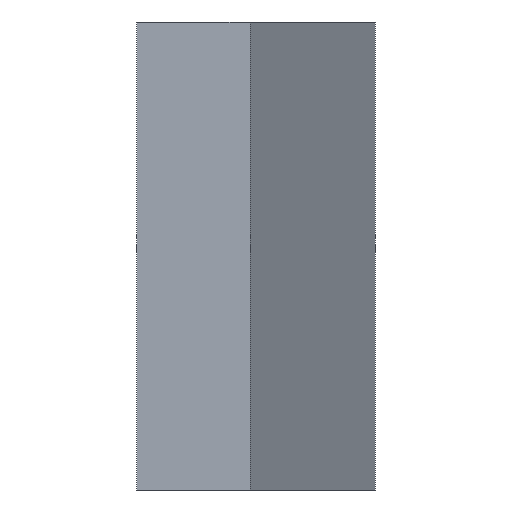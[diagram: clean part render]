
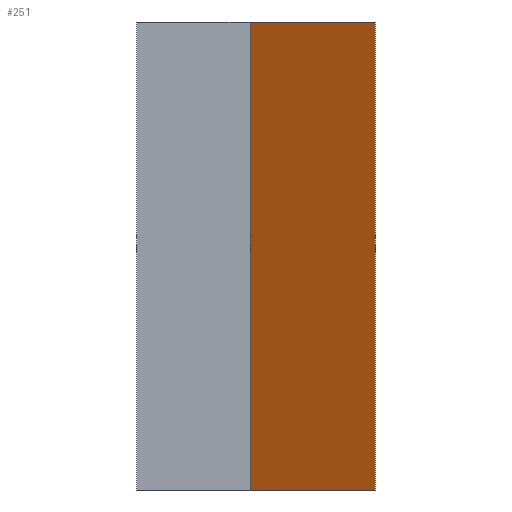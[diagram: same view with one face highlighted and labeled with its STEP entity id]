
A CAD part, left-side view. The second image highlights one B-rep face of the part: STEP entity #251.
In plain terms, the highlighted planar face has unit normal (-0.174, -0.985, 0).
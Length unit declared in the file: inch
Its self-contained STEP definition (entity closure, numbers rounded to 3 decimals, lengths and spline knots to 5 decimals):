
#5 = ORIENTED_EDGE ( 'NONE', *, *, #246, .T. ) ;
#27 = LINE ( 'NONE', #130, #88 ) ;
#29 = DIRECTION ( 'NONE',  ( 0.174, 0.985, 0. ) ) ;
#33 = CARTESIAN_POINT ( 'NONE',  ( 4.97245, -0.3149, 0. ) ) ;
#35 = EDGE_CURVE ( 'NONE', #155, #236, #27, .T. ) ;
#55 = FACE_OUTER_BOUND ( 'NONE', #179, .T. ) ;
#59 = VECTOR ( 'NONE', #138, 39.37008 ) ;
#61 = DIRECTION ( 'NONE',  ( 0.985, -0.174, 0. ) ) ;
#68 = AXIS2_PLACEMENT_3D ( 'NONE', #226, #29, #141 ) ;
#75 = ORIENTED_EDGE ( 'NONE', *, *, #116, .F. ) ;
#81 = PLANE ( 'NONE',  #68 ) ;
#87 = CARTESIAN_POINT ( 'NONE',  ( 6.94532, -0.66277, 1.3 ) ) ;
#88 = VECTOR ( 'NONE', #111, 39.37008 ) ;
#97 = VERTEX_POINT ( 'NONE', #87 ) ;
#103 = LINE ( 'NONE', #33, #272 ) ;
#111 = DIRECTION ( 'NONE',  ( 0., 0., -1. ) ) ;
#116 = EDGE_CURVE ( 'NONE', #155, #97, #170, .T. ) ;
#130 = CARTESIAN_POINT ( 'NONE',  ( 4.97245, -0.3149, 1.3 ) ) ;
#131 = ORIENTED_EDGE ( 'NONE', *, *, #35, .T. ) ;
#138 = DIRECTION ( 'NONE',  ( 0., 0., -1. ) ) ;
#141 = DIRECTION ( 'NONE',  ( -0.985, 0.174, 0. ) ) ;
#155 = VERTEX_POINT ( 'NONE', #231 ) ;
#170 = LINE ( 'NONE', #253, #174 ) ;
#174 = VECTOR ( 'NONE', #61, 39.37008 ) ;
#176 = ORIENTED_EDGE ( 'NONE', *, *, #234, .F. ) ;
#179 = EDGE_LOOP ( 'NONE', ( #5, #176, #75, #131 ) ) ;
#219 = VERTEX_POINT ( 'NONE', #269 ) ;
#226 = CARTESIAN_POINT ( 'NONE',  ( 4.97245, -0.3149, 1.3 ) ) ;
#231 = CARTESIAN_POINT ( 'NONE',  ( 4.97245, -0.3149, 1.3 ) ) ;
#234 = EDGE_CURVE ( 'NONE', #97, #219, #271, .T. ) ;
#236 = VERTEX_POINT ( 'NONE', #248 ) ;
#246 = EDGE_CURVE ( 'NONE', #236, #219, #103, .T. ) ;
#247 = CARTESIAN_POINT ( 'NONE',  ( 6.94532, -0.66277, 1.3 ) ) ;
#248 = CARTESIAN_POINT ( 'NONE',  ( 4.97245, -0.3149, 0. ) ) ;
#251 = ADVANCED_FACE ( 'NONE', ( #55 ), #81, .F. ) ;
#253 = CARTESIAN_POINT ( 'NONE',  ( 4.97245, -0.3149, 1.3 ) ) ;
#267 = DIRECTION ( 'NONE',  ( 0.985, -0.174, 0. ) ) ;
#269 = CARTESIAN_POINT ( 'NONE',  ( 6.94532, -0.66277, 0. ) ) ;
#271 = LINE ( 'NONE', #247, #59 ) ;
#272 = VECTOR ( 'NONE', #267, 39.37008 ) ;
